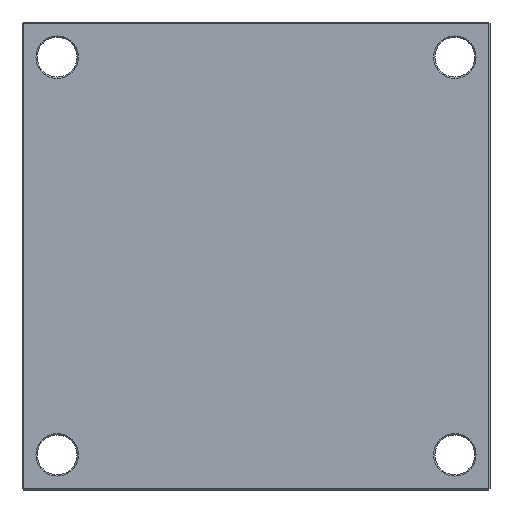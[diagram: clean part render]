
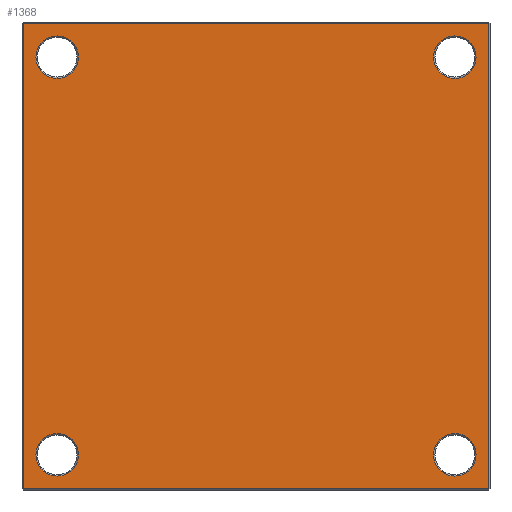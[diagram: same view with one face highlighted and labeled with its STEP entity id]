
A CAD part, front view. The second image highlights one B-rep face of the part: STEP entity #1368.
In plain terms, the highlighted planar face has unit normal (0, -1, 0).
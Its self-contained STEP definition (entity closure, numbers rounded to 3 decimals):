
#25 = VERTEX_POINT ( 'NONE', #1526 ) ;
#32 = DIRECTION ( 'NONE',  ( 0., 1., 0. ) ) ;
#51 = DIRECTION ( 'NONE',  ( 0., 0., -1. ) ) ;
#52 = CIRCLE ( 'NONE', #941, 15.7 ) ;
#97 = CARTESIAN_POINT ( 'NONE',  ( 147., 0., 131.3 ) ) ;
#130 = ORIENTED_EDGE ( 'NONE', *, *, #1852, .T. ) ;
#138 = DIRECTION ( 'NONE',  ( 0., 0., 1. ) ) ;
#179 = DIRECTION ( 'NONE',  ( 0., 0., 1. ) ) ;
#181 = DIRECTION ( 'NONE',  ( 0., 1., 0. ) ) ;
#188 = CARTESIAN_POINT ( 'NONE',  ( -147., 0., 147. ) ) ;
#197 = DIRECTION ( 'NONE',  ( -1., 0., 0. ) ) ;
#218 = DIRECTION ( 'NONE',  ( 0., 0., 1. ) ) ;
#227 = ORIENTED_EDGE ( 'NONE', *, *, #1850, .T. ) ;
#258 = FACE_BOUND ( 'NONE', #1725, .T. ) ;
#274 = CARTESIAN_POINT ( 'NONE',  ( 0., 0., 172. ) ) ;
#278 = CARTESIAN_POINT ( 'NONE',  ( 172., 0., -172. ) ) ;
#281 = ORIENTED_EDGE ( 'NONE', *, *, #1847, .T. ) ;
#283 = DIRECTION ( 'NONE',  ( 0., 1., 0. ) ) ;
#303 = CARTESIAN_POINT ( 'NONE',  ( 147., 0., 147. ) ) ;
#310 = VECTOR ( 'NONE', #197, 1000. ) ;
#312 = CARTESIAN_POINT ( 'NONE',  ( -172., 0., 0. ) ) ;
#355 = DIRECTION ( 'NONE',  ( 0., 0., 1. ) ) ;
#357 = CIRCLE ( 'NONE', #1621, 15.7 ) ;
#370 = CARTESIAN_POINT ( 'NONE',  ( 147., 0., -147. ) ) ;
#385 = VERTEX_POINT ( 'NONE', #1336 ) ;
#393 = DIRECTION ( 'NONE',  ( 0., 1., 0. ) ) ;
#398 = CARTESIAN_POINT ( 'NONE',  ( 147., 0., 147. ) ) ;
#404 = ORIENTED_EDGE ( 'NONE', *, *, #1843, .T. ) ;
#427 = VERTEX_POINT ( 'NONE', #1363 ) ;
#433 = CIRCLE ( 'NONE', #877, 15.7 ) ;
#457 = VERTEX_POINT ( 'NONE', #1327 ) ;
#462 = CARTESIAN_POINT ( 'NONE',  ( 172., 0., 0. ) ) ;
#475 = DIRECTION ( 'NONE',  ( 0., 1., 0. ) ) ;
#486 = DIRECTION ( 'NONE',  ( 0., 0., 1. ) ) ;
#490 = CIRCLE ( 'NONE', #932, 15.7 ) ;
#503 = CARTESIAN_POINT ( 'NONE',  ( -147., 0., -162.7 ) ) ;
#512 = ORIENTED_EDGE ( 'NONE', *, *, #1841, .T. ) ;
#573 = VERTEX_POINT ( 'NONE', #972 ) ;
#591 = DIRECTION ( 'NONE',  ( 0., 0., 1. ) ) ;
#595 = CARTESIAN_POINT ( 'NONE',  ( 147., 0., -147. ) ) ;
#615 = EDGE_LOOP ( 'NONE', ( #1172, #914 ) ) ;
#620 = ORIENTED_EDGE ( 'NONE', *, *, #1420, .T. ) ;
#650 = FACE_BOUND ( 'NONE', #1221, .T. ) ;
#653 = VECTOR ( 'NONE', #2164, 1000. ) ;
#656 = DIRECTION ( 'NONE',  ( 0., 0., 1. ) ) ;
#676 = DIRECTION ( 'NONE',  ( 0., 1., 0. ) ) ;
#701 = ORIENTED_EDGE ( 'NONE', *, *, #1835, .T. ) ;
#706 = FACE_BOUND ( 'NONE', #615, .T. ) ;
#730 = ORIENTED_EDGE ( 'NONE', *, *, #1468, .T. ) ;
#750 = ORIENTED_EDGE ( 'NONE', *, *, #1830, .T. ) ;
#758 = LINE ( 'NONE', #274, #310 ) ;
#760 = DIRECTION ( 'NONE',  ( 0., 1., 0. ) ) ;
#767 = DIRECTION ( 'NONE',  ( 0., 0., 1. ) ) ;
#770 = CARTESIAN_POINT ( 'NONE',  ( -147., 0., -147. ) ) ;
#798 = CIRCLE ( 'NONE', #1612, 15.7 ) ;
#839 = AXIS2_PLACEMENT_3D ( 'NONE', #1012, #676, #656 ) ;
#841 = PLANE ( 'NONE',  #839 ) ;
#877 = AXIS2_PLACEMENT_3D ( 'NONE', #1160, #1151, #1140 ) ;
#881 = ORIENTED_EDGE ( 'NONE', *, *, #1523, .T. ) ;
#902 = AXIS2_PLACEMENT_3D ( 'NONE', #398, #393, #355 ) ;
#914 = ORIENTED_EDGE ( 'NONE', *, *, #1824, .T. ) ;
#932 = AXIS2_PLACEMENT_3D ( 'NONE', #370, #283, #218 ) ;
#941 = AXIS2_PLACEMENT_3D ( 'NONE', #1959, #1950, #1941 ) ;
#956 = VERTEX_POINT ( 'NONE', #503 ) ;
#972 = CARTESIAN_POINT ( 'NONE',  ( 147., 0., 162.7 ) ) ;
#1012 = CARTESIAN_POINT ( 'NONE',  ( 0., 0., 0. ) ) ;
#1140 = DIRECTION ( 'NONE',  ( 0., 0., 1. ) ) ;
#1148 = VECTOR ( 'NONE', #486, 1000. ) ;
#1151 = DIRECTION ( 'NONE',  ( 0., 1., 0. ) ) ;
#1156 = VERTEX_POINT ( 'NONE', #2038 ) ;
#1160 = CARTESIAN_POINT ( 'NONE',  ( -147., 0., 147. ) ) ;
#1172 = ORIENTED_EDGE ( 'NONE', *, *, #1571, .T. ) ;
#1209 = CARTESIAN_POINT ( 'NONE',  ( -172., 0., -172. ) ) ;
#1211 = CIRCLE ( 'NONE', #1616, 15.7 ) ;
#1221 = EDGE_LOOP ( 'NONE', ( #730, #701 ) ) ;
#1239 = CARTESIAN_POINT ( 'NONE',  ( -147., 0., 162.7 ) ) ;
#1244 = VERTEX_POINT ( 'NONE', #278 ) ;
#1280 = CIRCLE ( 'NONE', #1585, 15.7 ) ;
#1327 = CARTESIAN_POINT ( 'NONE',  ( 147., 0., -131.3 ) ) ;
#1336 = CARTESIAN_POINT ( 'NONE',  ( -172., 0., 172. ) ) ;
#1363 = CARTESIAN_POINT ( 'NONE',  ( 172., 0., 172. ) ) ;
#1368 = ADVANCED_FACE ( 'NONE', ( #706, #2083, #650, #258, #2041 ), #841, .F. ) ;
#1420 = EDGE_CURVE ( 'NONE', #1971, #1721, #433, .T. ) ;
#1468 = EDGE_CURVE ( 'NONE', #1552, #573, #2059, .T. ) ;
#1522 = CARTESIAN_POINT ( 'NONE',  ( -147., 0., 131.3 ) ) ;
#1523 = EDGE_CURVE ( 'NONE', #25, #457, #490, .T. ) ;
#1526 = CARTESIAN_POINT ( 'NONE',  ( 147., 0., -162.7 ) ) ;
#1552 = VERTEX_POINT ( 'NONE', #97 ) ;
#1571 = EDGE_CURVE ( 'NONE', #956, #1156, #52, .T. ) ;
#1585 = AXIS2_PLACEMENT_3D ( 'NONE', #770, #760, #767 ) ;
#1600 = VECTOR ( 'NONE', #51, 1000. ) ;
#1612 = AXIS2_PLACEMENT_3D ( 'NONE', #595, #475, #591 ) ;
#1616 = AXIS2_PLACEMENT_3D ( 'NONE', #303, #32, #138 ) ;
#1621 = AXIS2_PLACEMENT_3D ( 'NONE', #188, #181, #179 ) ;
#1659 = LINE ( 'NONE', #312, #1600 ) ;
#1721 = VERTEX_POINT ( 'NONE', #1239 ) ;
#1725 = EDGE_LOOP ( 'NONE', ( #620, #512 ) ) ;
#1742 = VERTEX_POINT ( 'NONE', #1209 ) ;
#1783 = EDGE_LOOP ( 'NONE', ( #404, #281, #227, #130 ) ) ;
#1824 = EDGE_CURVE ( 'NONE', #1156, #956, #1280, .T. ) ;
#1830 = EDGE_CURVE ( 'NONE', #457, #25, #798, .T. ) ;
#1835 = EDGE_CURVE ( 'NONE', #573, #1552, #1211, .T. ) ;
#1841 = EDGE_CURVE ( 'NONE', #1721, #1971, #357, .T. ) ;
#1843 = EDGE_CURVE ( 'NONE', #1244, #427, #2150, .T. ) ;
#1844 = EDGE_LOOP ( 'NONE', ( #881, #750 ) ) ;
#1847 = EDGE_CURVE ( 'NONE', #427, #385, #758, .T. ) ;
#1850 = EDGE_CURVE ( 'NONE', #385, #1742, #1659, .T. ) ;
#1852 = EDGE_CURVE ( 'NONE', #1742, #1244, #2084, .T. ) ;
#1941 = DIRECTION ( 'NONE',  ( 0., 0., 1. ) ) ;
#1950 = DIRECTION ( 'NONE',  ( 0., 1., 0. ) ) ;
#1959 = CARTESIAN_POINT ( 'NONE',  ( -147., 0., -147. ) ) ;
#1971 = VERTEX_POINT ( 'NONE', #1522 ) ;
#2038 = CARTESIAN_POINT ( 'NONE',  ( -147., 0., -131.3 ) ) ;
#2041 = FACE_OUTER_BOUND ( 'NONE', #1783, .T. ) ;
#2059 = CIRCLE ( 'NONE', #902, 15.7 ) ;
#2083 = FACE_BOUND ( 'NONE', #1844, .T. ) ;
#2084 = LINE ( 'NONE', #2181, #653 ) ;
#2150 = LINE ( 'NONE', #462, #1148 ) ;
#2164 = DIRECTION ( 'NONE',  ( 1., 0., 0. ) ) ;
#2181 = CARTESIAN_POINT ( 'NONE',  ( 0., 0., -172. ) ) ;
